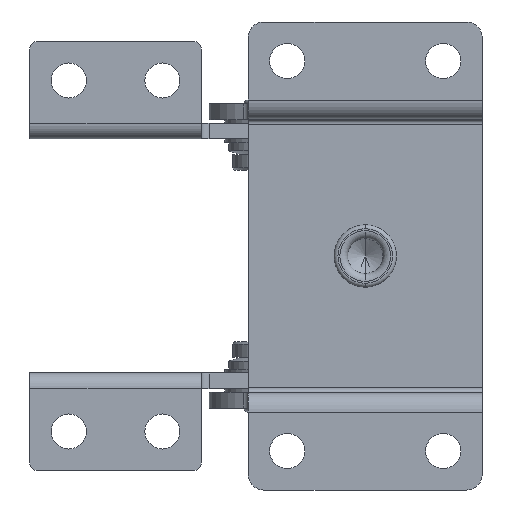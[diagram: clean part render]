
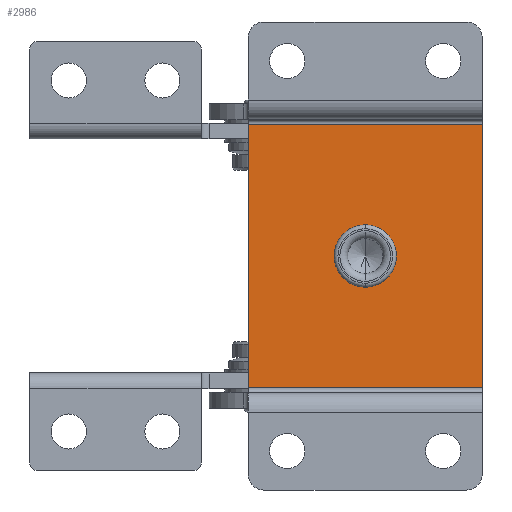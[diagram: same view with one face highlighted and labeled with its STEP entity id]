
A CAD part, front view. The second image highlights one B-rep face of the part: STEP entity #2986.
In plain terms, the highlighted planar face has unit normal (0, -1, 0).
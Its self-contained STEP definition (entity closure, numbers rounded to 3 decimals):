
#160 = LINE ( 'NONE', #6203, #726 ) ;
#537 = LINE ( 'NONE', #5966, #4234 ) ;
#726 = VECTOR ( 'NONE', #2517, 1000. ) ;
#790 = DIRECTION ( 'NONE',  ( 1., 0., 0. ) ) ;
#1138 = CIRCLE ( 'NONE', #1618, 3. ) ;
#1322 = CARTESIAN_POINT ( 'NONE',  ( 15., 10., 17.5 ) ) ;
#1618 = AXIS2_PLACEMENT_3D ( 'NONE', #4590, #6945, #6365 ) ;
#1755 = ORIENTED_EDGE ( 'NONE', *, *, #3373, .T. ) ;
#1951 = LINE ( 'NONE', #3072, #5174 ) ;
#2092 = AXIS2_PLACEMENT_3D ( 'NONE', #4338, #6042, #6695 ) ;
#2121 = CARTESIAN_POINT ( 'NONE',  ( 15., 10., 16.92 ) ) ;
#2299 = CARTESIAN_POINT ( 'NONE',  ( 15., 10., -16.92 ) ) ;
#2450 = EDGE_LOOP ( 'NONE', ( #6842, #6708, #7091, #1755 ) ) ;
#2517 = DIRECTION ( 'NONE',  ( -1., 0., 0. ) ) ;
#2649 = ORIENTED_EDGE ( 'NONE', *, *, #6603, .T. ) ;
#2986 = ADVANCED_FACE ( 'NONE', ( #3701, #6631 ), #4242, .F. ) ;
#2999 = EDGE_CURVE ( 'NONE', #6668, #6120, #3744, .T. ) ;
#3042 = EDGE_CURVE ( 'NONE', #4077, #4038, #1951, .T. ) ;
#3072 = CARTESIAN_POINT ( 'NONE',  ( -15., 10., 17.5 ) ) ;
#3102 = CARTESIAN_POINT ( 'NONE',  ( -15., 10., 16.92 ) ) ;
#3373 = EDGE_CURVE ( 'NONE', #6668, #4077, #160, .T. ) ;
#3560 = CARTESIAN_POINT ( 'NONE',  ( 0., 10., 3. ) ) ;
#3659 = CARTESIAN_POINT ( 'NONE',  ( 15., 10., 17.5 ) ) ;
#3701 = FACE_BOUND ( 'NONE', #6357, .T. ) ;
#3744 = LINE ( 'NONE', #3659, #6293 ) ;
#4038 = VERTEX_POINT ( 'NONE', #4538 ) ;
#4077 = VERTEX_POINT ( 'NONE', #3102 ) ;
#4234 = VECTOR ( 'NONE', #6488, 1000. ) ;
#4242 = PLANE ( 'NONE',  #5300 ) ;
#4338 = CARTESIAN_POINT ( 'NONE',  ( 0., 10., 0. ) ) ;
#4506 = EDGE_CURVE ( 'NONE', #4038, #6120, #537, .T. ) ;
#4538 = CARTESIAN_POINT ( 'NONE',  ( -15., 10., -16.92 ) ) ;
#4590 = CARTESIAN_POINT ( 'NONE',  ( 0., 10., 0. ) ) ;
#4827 = DIRECTION ( 'NONE',  ( 0., 1., 0. ) ) ;
#5174 = VECTOR ( 'NONE', #5445, 1000. ) ;
#5241 = EDGE_CURVE ( 'NONE', #6007, #5664, #1138, .T. ) ;
#5300 = AXIS2_PLACEMENT_3D ( 'NONE', #1322, #4827, #790 ) ;
#5445 = DIRECTION ( 'NONE',  ( 0., 0., -1. ) ) ;
#5664 = VERTEX_POINT ( 'NONE', #3560 ) ;
#5966 = CARTESIAN_POINT ( 'NONE',  ( 15., 10., -16.92 ) ) ;
#6007 = VERTEX_POINT ( 'NONE', #6727 ) ;
#6042 = DIRECTION ( 'NONE',  ( 0., 1., 0. ) ) ;
#6120 = VERTEX_POINT ( 'NONE', #2299 ) ;
#6203 = CARTESIAN_POINT ( 'NONE',  ( -15., 10., 16.92 ) ) ;
#6293 = VECTOR ( 'NONE', #6594, 1000. ) ;
#6357 = EDGE_LOOP ( 'NONE', ( #2649, #6428 ) ) ;
#6365 = DIRECTION ( 'NONE',  ( 0., 0., 1. ) ) ;
#6428 = ORIENTED_EDGE ( 'NONE', *, *, #5241, .T. ) ;
#6488 = DIRECTION ( 'NONE',  ( 1., 0., 0. ) ) ;
#6594 = DIRECTION ( 'NONE',  ( 0., 0., -1. ) ) ;
#6603 = EDGE_CURVE ( 'NONE', #5664, #6007, #7289, .T. ) ;
#6631 = FACE_OUTER_BOUND ( 'NONE', #2450, .T. ) ;
#6668 = VERTEX_POINT ( 'NONE', #2121 ) ;
#6695 = DIRECTION ( 'NONE',  ( 0., 0., 1. ) ) ;
#6708 = ORIENTED_EDGE ( 'NONE', *, *, #4506, .T. ) ;
#6727 = CARTESIAN_POINT ( 'NONE',  ( 0., 10., -3. ) ) ;
#6842 = ORIENTED_EDGE ( 'NONE', *, *, #3042, .T. ) ;
#6945 = DIRECTION ( 'NONE',  ( 0., 1., 0. ) ) ;
#7091 = ORIENTED_EDGE ( 'NONE', *, *, #2999, .F. ) ;
#7289 = CIRCLE ( 'NONE', #2092, 3. ) ;
